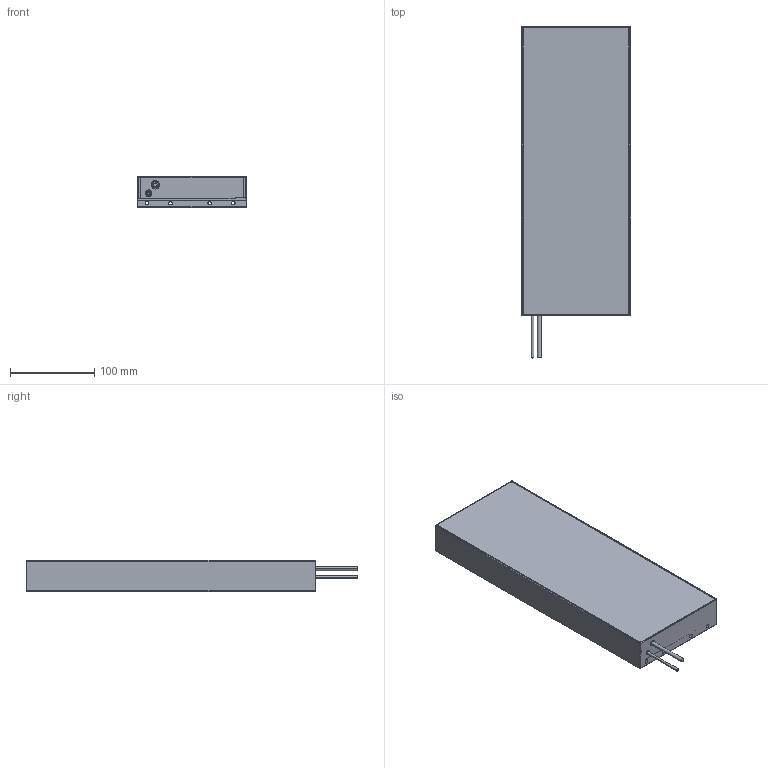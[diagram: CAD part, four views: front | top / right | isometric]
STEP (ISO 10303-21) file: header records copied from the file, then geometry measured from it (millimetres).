
FILE_DESCRIPTION (( 'STEP AP203' ), '1' );
FILE_NAME ('ICV124-18.STEP', '2024-07-23T07:23:40', ( '' ), ( '' ), 'SwSTEP 2.0', 'SolidWorks 2019', '' );
FILE_SCHEMA (( 'CONFIG_CONTROL_DESIGN' ));
Length unit declared in the file: millimetre
Products named in the file (7): IC76-萇擢橈埽璃; 錨璃18^IC124-18; IC76-恲諷橈埽璃; ICV124-18; IC124-18褲极; IC124-18桏帣; 錨璃6^IC124-18
Assembly tree (9 placements, depth 2):
  ICV124-18
    IC124-18褲极
    IC124-18桏帣  x4
    IC76-恲諷橈埽璃
    IC76-萇擢橈埽璃
    錨璃6^IC124-18
    錨璃18^IC124-18
Bounding box: 130 x 394 x 37 mm (x, y, z)
Volume: 1729451.1 mm3; surface area: 301066.5 mm2
Topology: 10 solids, 10 shells, 547 faces, 1482 edges, 959 vertices
Faces by surface type: plane 270, cylinder 253, cone 16, sphere 8
Entity records: 11628 total; most frequent: CARTESIAN_POINT 1954, DIRECTION 1922, ORIENTED_EDGE 1832, EDGE_CURVE 916, AXIS2_PLACEMENT_3D 679, VERTEX_POINT 587, LINE 564, VECTOR 564
